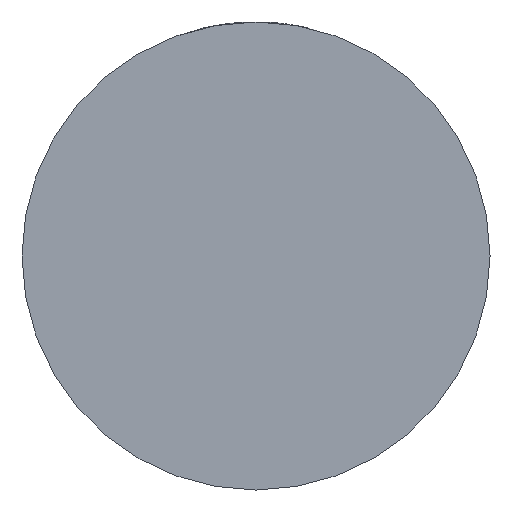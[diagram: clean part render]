
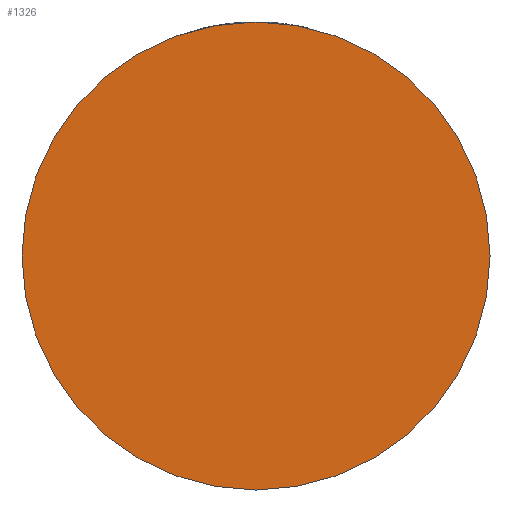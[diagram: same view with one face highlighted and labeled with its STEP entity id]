
A CAD part, front view. The second image highlights one B-rep face of the part: STEP entity #1326.
In plain terms, the highlighted planar face has unit normal (0, -1, 0).
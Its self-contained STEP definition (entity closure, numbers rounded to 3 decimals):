
#202 = EDGE_CURVE ( 'NONE', #899, #3388, #1297, .T. ) ;
#555 = EDGE_CURVE ( 'NONE', #3388, #899, #1155, .T. ) ;
#798 = AXIS2_PLACEMENT_3D ( 'NONE', #1108, #2451, #3142 ) ;
#899 = VERTEX_POINT ( 'NONE', #2191 ) ;
#1108 = CARTESIAN_POINT ( 'NONE',  ( 0., -28., 0. ) ) ;
#1155 = CIRCLE ( 'NONE', #798, 40. ) ;
#1270 = FACE_OUTER_BOUND ( 'NONE', #3724, .T. ) ;
#1297 = CIRCLE ( 'NONE', #1865, 40. ) ;
#1326 = ADVANCED_FACE ( 'NONE', ( #1270 ), #2636, .T. ) ;
#1337 = DIRECTION ( 'NONE',  ( 0., -1., 0. ) ) ;
#1862 = CARTESIAN_POINT ( 'NONE',  ( 0., -28., 0. ) ) ;
#1865 = AXIS2_PLACEMENT_3D ( 'NONE', #1862, #2500, #4186 ) ;
#1874 = AXIS2_PLACEMENT_3D ( 'NONE', #1937, #1337, #2294 ) ;
#1937 = CARTESIAN_POINT ( 'NONE',  ( 0., -28., 0. ) ) ;
#2191 = CARTESIAN_POINT ( 'NONE',  ( 40., -28., 0. ) ) ;
#2294 = DIRECTION ( 'NONE',  ( 1., 0., 0. ) ) ;
#2451 = DIRECTION ( 'NONE',  ( 0., -1., 0. ) ) ;
#2500 = DIRECTION ( 'NONE',  ( 0., -1., 0. ) ) ;
#2636 = PLANE ( 'NONE',  #1874 ) ;
#2641 = ORIENTED_EDGE ( 'NONE', *, *, #202, .T. ) ;
#2832 = ORIENTED_EDGE ( 'NONE', *, *, #555, .T. ) ;
#3023 = CARTESIAN_POINT ( 'NONE',  ( -40., -28., 0. ) ) ;
#3142 = DIRECTION ( 'NONE',  ( 1., 0., 0. ) ) ;
#3388 = VERTEX_POINT ( 'NONE', #3023 ) ;
#3724 = EDGE_LOOP ( 'NONE', ( #2832, #2641 ) ) ;
#4186 = DIRECTION ( 'NONE',  ( 1., 0., 0. ) ) ;
